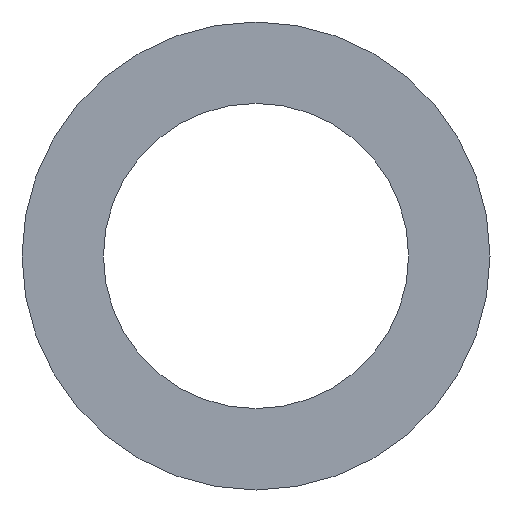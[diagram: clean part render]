
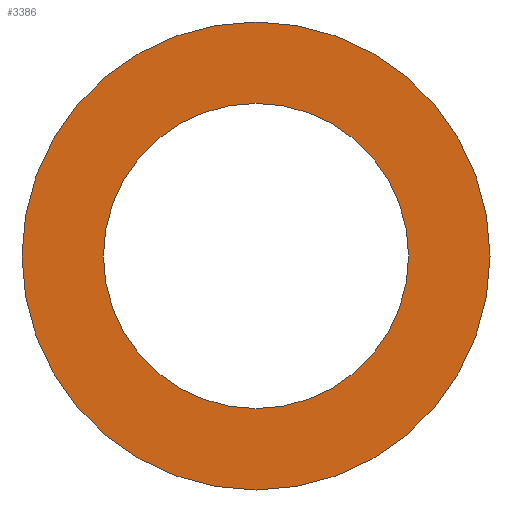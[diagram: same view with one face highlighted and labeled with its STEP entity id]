
A CAD part, front view. The second image highlights one B-rep face of the part: STEP entity #3386.
In plain terms, the highlighted planar face has unit normal (0, -1, 0).
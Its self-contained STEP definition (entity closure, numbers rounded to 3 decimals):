
#135 = DIRECTION ( 'NONE',  ( 0., -1., 0. ) ) ;
#170 = DIRECTION ( 'NONE',  ( 0., 0., -1. ) ) ;
#257 = AXIS2_PLACEMENT_3D ( 'NONE', #1818, #135, #1251 ) ;
#258 = EDGE_CURVE ( 'NONE', #888, #764, #2991, .T. ) ;
#319 = DIRECTION ( 'NONE',  ( 0., 1., 0. ) ) ;
#581 = CARTESIAN_POINT ( 'NONE',  ( 0., -20., 0. ) ) ;
#582 = CARTESIAN_POINT ( 'NONE',  ( 0., -20., -37.5 ) ) ;
#764 = VERTEX_POINT ( 'NONE', #2599 ) ;
#888 = VERTEX_POINT ( 'NONE', #2645 ) ;
#1002 = AXIS2_PLACEMENT_3D ( 'NONE', #2705, #1589, #170 ) ;
#1131 = VERTEX_POINT ( 'NONE', #582 ) ;
#1172 = AXIS2_PLACEMENT_3D ( 'NONE', #3508, #3268, #3541 ) ;
#1220 = DIRECTION ( 'NONE',  ( 0., 0., 1. ) ) ;
#1251 = DIRECTION ( 'NONE',  ( 0., 0., -1. ) ) ;
#1398 = FACE_OUTER_BOUND ( 'NONE', #3608, .T. ) ;
#1400 = DIRECTION ( 'NONE',  ( 0., -1., 0. ) ) ;
#1495 = ORIENTED_EDGE ( 'NONE', *, *, #1744, .F. ) ;
#1544 = CIRCLE ( 'NONE', #1172, 37.5 ) ;
#1589 = DIRECTION ( 'NONE',  ( 0., -1., 0. ) ) ;
#1620 = CARTESIAN_POINT ( 'NONE',  ( 0., -20., 37.5 ) ) ;
#1732 = ORIENTED_EDGE ( 'NONE', *, *, #2335, .T. ) ;
#1744 = EDGE_CURVE ( 'NONE', #3697, #1131, #1544, .T. ) ;
#1763 = PLANE ( 'NONE',  #1863 ) ;
#1791 = CARTESIAN_POINT ( 'NONE',  ( 0., -20., 37.5 ) ) ;
#1818 = CARTESIAN_POINT ( 'NONE',  ( 0., -20., 0. ) ) ;
#1835 = CIRCLE ( 'NONE', #1002, 37.5 ) ;
#1863 = AXIS2_PLACEMENT_3D ( 'NONE', #1791, #319, #1220 ) ;
#2227 = ORIENTED_EDGE ( 'NONE', *, *, #2526, .F. ) ;
#2335 = EDGE_CURVE ( 'NONE', #764, #888, #3059, .T. ) ;
#2526 = EDGE_CURVE ( 'NONE', #1131, #3697, #1835, .T. ) ;
#2599 = CARTESIAN_POINT ( 'NONE',  ( 0., -20., 57.5 ) ) ;
#2645 = CARTESIAN_POINT ( 'NONE',  ( 0., -20., -57.5 ) ) ;
#2705 = CARTESIAN_POINT ( 'NONE',  ( 0., -20., 0. ) ) ;
#2717 = ORIENTED_EDGE ( 'NONE', *, *, #258, .T. ) ;
#2874 = DIRECTION ( 'NONE',  ( 0., 0., -1. ) ) ;
#2991 = CIRCLE ( 'NONE', #3163, 57.5 ) ;
#3016 = FACE_BOUND ( 'NONE', #3091, .T. ) ;
#3059 = CIRCLE ( 'NONE', #257, 57.5 ) ;
#3091 = EDGE_LOOP ( 'NONE', ( #2227, #1495 ) ) ;
#3163 = AXIS2_PLACEMENT_3D ( 'NONE', #581, #1400, #2874 ) ;
#3268 = DIRECTION ( 'NONE',  ( 0., -1., 0. ) ) ;
#3386 = ADVANCED_FACE ( 'NONE', ( #3016, #1398 ), #1763, .F. ) ;
#3508 = CARTESIAN_POINT ( 'NONE',  ( 0., -20., 0. ) ) ;
#3541 = DIRECTION ( 'NONE',  ( 0., 0., -1. ) ) ;
#3608 = EDGE_LOOP ( 'NONE', ( #2717, #1732 ) ) ;
#3697 = VERTEX_POINT ( 'NONE', #1620 ) ;
